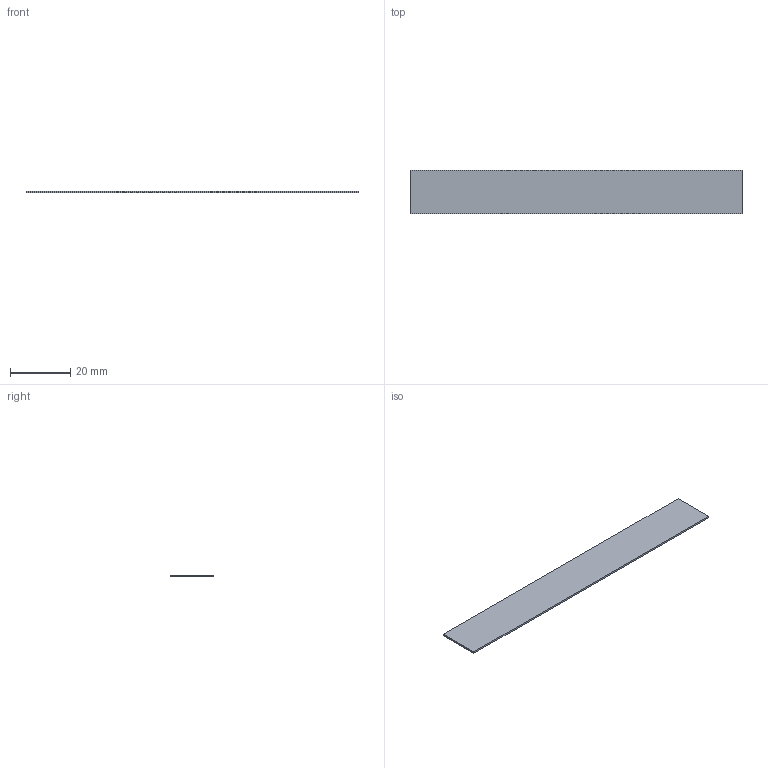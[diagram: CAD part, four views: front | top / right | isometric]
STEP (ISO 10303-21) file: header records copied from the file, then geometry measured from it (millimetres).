
FILE_DESCRIPTION(('Open CASCADE Model'),'2;1');
FILE_NAME('Open CASCADE Shape Model','2026-10-21T18:50:24',('Author'),( 'Open CASCADE'),'Open CASCADE STEP processor 8.0','build123d', 'Unknown');
FILE_SCHEMA(('AUTOMOTIVE_DESIGN { 1 0 10303 214 1 1 1 1 }'));
Length unit declared in the file: millimetre
Products named in the file (2): =>[0:1:1:2]; COMPOUND
Assembly tree (1 placements, depth 2):
  =>[0:1:1:2]
    COMPOUND
Bounding box: 109.85 x 14.3 x 0.6 mm (x, y, z)
Volume: 942.5 mm3; surface area: 3290.7 mm2
Topology: 1 solids, 1 shells, 6 faces, 12 edges, 8 vertices
Faces by surface type: plane 6
Entity records: 340 total; most frequent: CARTESIAN_POINT 52, DIRECTION 52, LINE 36, VECTOR 36, ORIENTED_EDGE 24, PCURVE 24, DEFINITIONAL_REPRESENTATION 24, EDGE_CURVE 12
